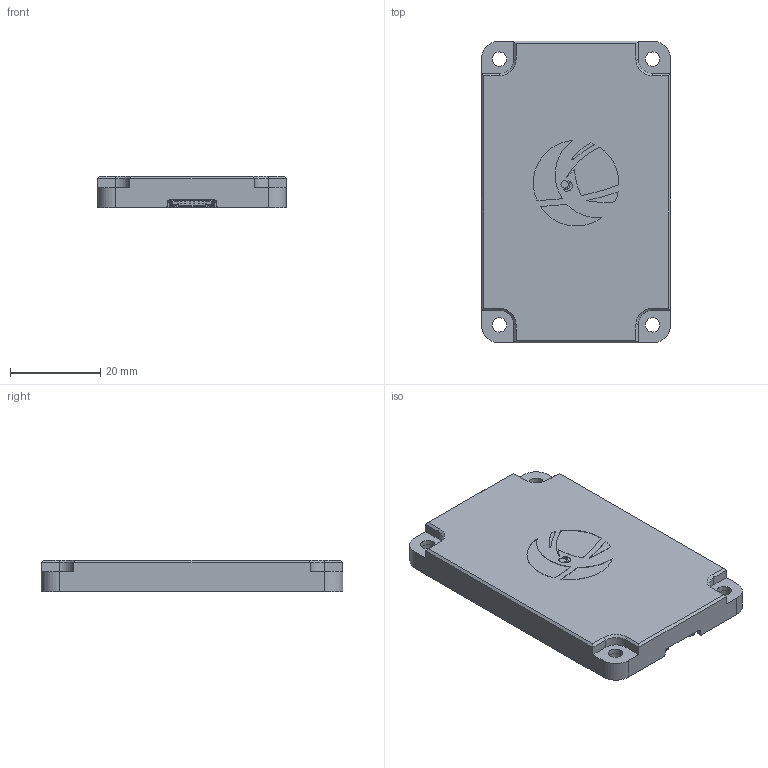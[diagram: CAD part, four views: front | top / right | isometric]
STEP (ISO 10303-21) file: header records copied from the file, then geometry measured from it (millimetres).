
FILE_DESCRIPTION(/* description */ ('Spacemanic Eddie OBC low detail 3D model'),/* implementation_level */ '2;1');
FILE_NAME(/* name */ 'Eddie_obc_msp430_V3_PCB_low_details',/* time_stamp */ '2021-01-06T19:53:07+01:00',/* author */ ('Spacemanic s.r.o.'),/* organization */ ('Spacemanic s.r.o.'),/* preprocessor_version */ 'ST-DEVELOPER v16.7',/* originating_system */ 'Solid Edge',/* authorisation */ 'Unknown');
FILE_SCHEMA (('AUTOMOTIVE_DESIGN {1 0 10303 214 3 1 1}'));
Products named in the file (8): Eddie_obc_msp430_V3_PCB_low_details; Board_Geoms; Pcb; Step_Models; Bot.step; J1_Molex_SlimStack_556500688_5E5CC9A3; J2_Molex_Pico-Lock_6_1mm_5E5CCAAC; cover_OBC_height_7mm
Assembly tree (7 placements, depth 4):
  Eddie_obc_msp430_V3_PCB_low_details
    Board_Geoms
      Pcb
    Step_Models
      Bot.step
        J1_Molex_SlimStack_556500688_5E5CC9A3
        J2_Molex_Pico-Lock_6_1mm_5E5CCAAC
    cover_OBC_height_7mm
Bounding box: 42 x 67 x 7 mm (x, y, z)
Volume: 8780.8 mm3; surface area: 14323.5 mm2
Topology: 4 solids, 4 shells, 2820 faces, 8692 edges, 5646 vertices
Faces by surface type: plane 2459, cylinder 333, cone 28
Full cylindrical faces by diameter (mm): 0.8 x2, 1 x9, 1.1 x8, 1.5 x8, 1.662 x1, 3.2 x8
Entity records: 113760 total; most frequent: ORIENTED_EDGE 17264, CARTESIAN_POINT 17106, DIRECTION 14978, EDGE_CURVE 8632, LINE 7942, VECTOR 7942, VERTEX_POINT 5646, AXIS2_PLACEMENT_3D 3518
